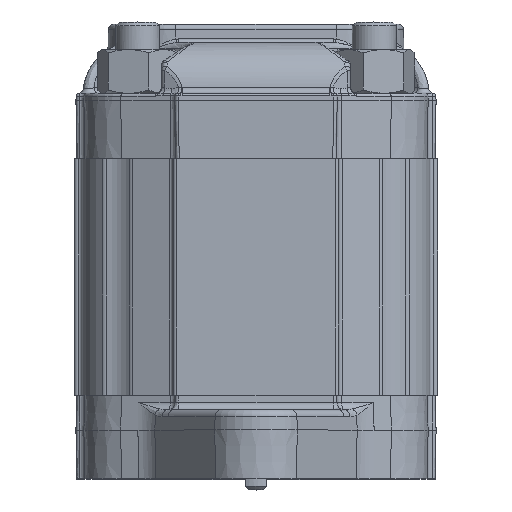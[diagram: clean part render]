
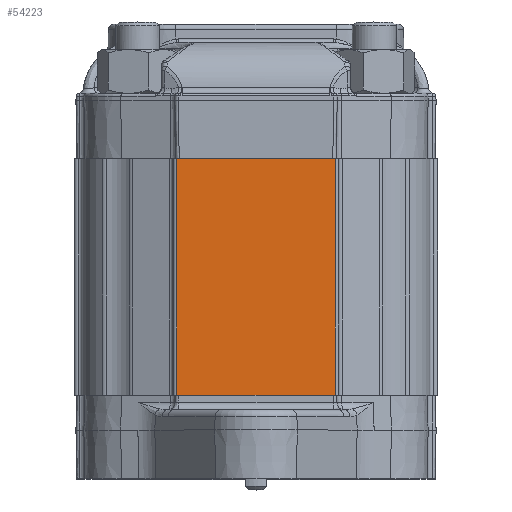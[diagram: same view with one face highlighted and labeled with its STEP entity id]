
A CAD part, top view. The second image highlights one B-rep face of the part: STEP entity #54223.
In plain terms, the highlighted planar face has unit normal (0, 0, 1).
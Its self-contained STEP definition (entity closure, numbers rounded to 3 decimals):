
#3444=LINE('',#91802,#5338);
#3445=LINE('',#91804,#5339);
#3446=LINE('',#91806,#5340);
#3447=LINE('',#91808,#5341);
#5338=VECTOR('',#63420,1000.);
#5339=VECTOR('',#63423,1000.);
#5340=VECTOR('',#63424,1000.);
#5341=VECTOR('',#63425,1000.);
#7901=PLANE('',#57323);
#11915=ORIENTED_EDGE('',*,*,#21623,.F.);
#11916=ORIENTED_EDGE('',*,*,#21622,.F.);
#11917=ORIENTED_EDGE('',*,*,#21624,.T.);
#11918=ORIENTED_EDGE('',*,*,#21625,.T.);
#21622=EDGE_CURVE('',#26695,#26693,#3444,.T.);
#21623=EDGE_CURVE('',#26693,#26696,#3445,.T.);
#21624=EDGE_CURVE('',#26695,#26697,#3446,.T.);
#21625=EDGE_CURVE('',#26697,#26696,#3447,.T.);
#26693=VERTEX_POINT('',#91797);
#26695=VERTEX_POINT('',#91801);
#26696=VERTEX_POINT('',#91805);
#26697=VERTEX_POINT('',#91807);
#31647=EDGE_LOOP('',(#11915,#11916,#11917,#11918));
#34357=FACE_BOUND('',#31647,.T.);
#54223=ADVANCED_FACE('',(#34357),#7901,.T.);
#57323=AXIS2_PLACEMENT_3D('',#91803,#63421,#63422);
#63420=DIRECTION('',(0.,-1.,0.));
#63421=DIRECTION('',(0.,0.,1.));
#63422=DIRECTION('',(1.,0.,0.));
#63423=DIRECTION('',(-1.,0.,0.));
#63424=DIRECTION('',(-1.,0.,0.));
#63425=DIRECTION('',(0.,-1.,0.));
#91797=CARTESIAN_POINT('',(10.923,0.,27.));
#91801=CARTESIAN_POINT('',(10.923,32.5,27.));
#91802=CARTESIAN_POINT('',(10.923,32.5,27.));
#91803=CARTESIAN_POINT('',(10.923,32.5,27.));
#91804=CARTESIAN_POINT('',(10.923,0.,27.));
#91805=CARTESIAN_POINT('',(-10.923,0.,27.));
#91806=CARTESIAN_POINT('',(10.923,32.5,27.));
#91807=CARTESIAN_POINT('',(-10.923,32.5,27.));
#91808=CARTESIAN_POINT('',(-10.923,32.5,27.));
